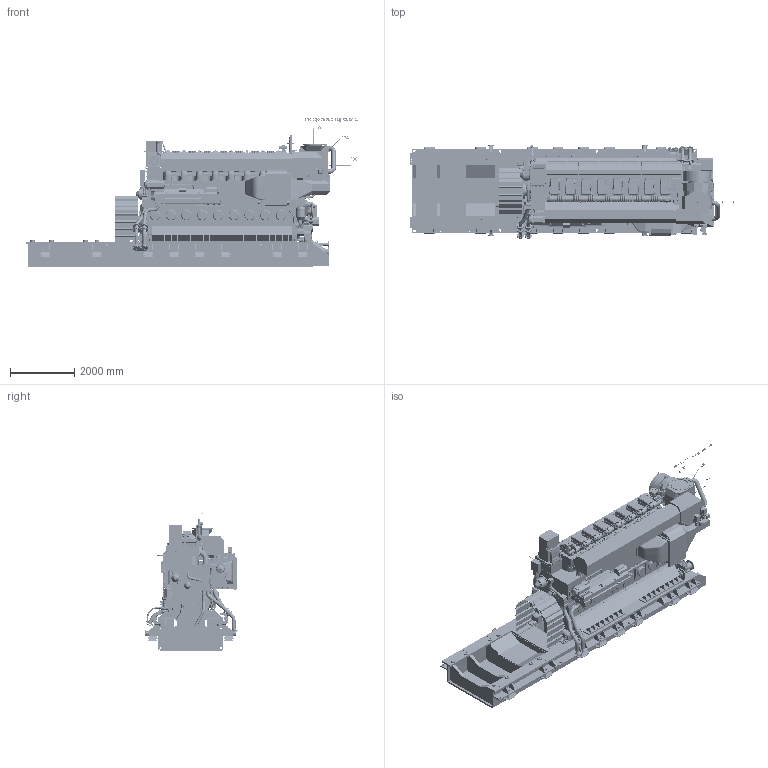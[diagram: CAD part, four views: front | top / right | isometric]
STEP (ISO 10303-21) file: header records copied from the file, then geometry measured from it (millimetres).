
FILE_DESCRIPTION(/* description */ (''),/* implementation_level */ '2;1');
FILE_NAME(/* name */ 'DAAF385069_A.stp',/* time_stamp */ '2021-12-23T09:26:34+02:00',/* author */ (''),/* organization */ (''),/* preprocessor_version */ 'ST-DEVELOPER v16.7',/* originating_system */ 'SIEMENS PLM Software NX 1915',/* authorisation */ '');
FILE_SCHEMA (('AUTOMOTIVE_DESIGN { 1 0 10303 214 3 1 1 1 }'));
Products named in the file (75): PABA316068_-; PAAF442682_-; PAAF211477_-; PAAF363075_-; PAAF443398_-; PABA097868_-; PAAF447172_-; PAAF528361_-; PABA065852_-; PABA135981_-; PABA089633_-; PABA142427_-; PAAF671497_-; PABA259622_-; PAAF247479_-; PAAF078074_-; PAAF559689_-; PAAF909498_-; PAAF977035_-; PAAF675626_-; PAAF270351_-; PAAF906214_-; PABA065520_-; PAAF078708_-; PAAF243367_-; PAAF721110_-; PAAF776393_-; PAAF681233_-; PAAF683775_-; PAAF407546_-; PAAF068492_-; PAAF920692_-; PAAF093819_-; PAAF093585_-; PAAF271372_-; PAAF093447_-; PAAF074444_-; PAAF087145_-; PAAF243686_-; PAAF245469_-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
Assembly tree (90 placements, depth 3):
  PABA316022_-
    PABA316023_-_MODEL
      PAAF063632_-
      PABA036862_-
      PAAF238216_-
      PAAF291916_-
      PAAF906204_-
      PAAF063770_-
      PAAF895907_-
      PAAF976966_-
      PAAF976975_-
      PAAF064319_-
      PAAF243623_-
      PAAF555902_-
      PAAF074388_-
      PAAF243671_-
      PAAF555085_-  x2
      PAAF555086_-  x2
      PAAF692337_-
      PAAF397145_-
      PAAF078241_-
      PAAF087122_-
      PAAF087082_-
      PAAF975946_-  x7
      PAAF975926_-  x8
      PABA066964_-
      PAAF906213_-
      PAAF247485_-
      PAAF247482_-
      PAAF087136_-
      PAAF245469_-
      PAAF243686_-
      PAAF087145_-
      PAAF074444_-
      PAAF093447_-
      PAAF271372_-
      PAAF093585_-
      PAAF093819_-
      PAAF920692_-
      PAAF068492_-
      PAAF407546_-
      PAAF683775_-
      PAAF681233_-
      PAAF776393_-
      PAAF721110_-
      PAAF243367_-  x2
      PAAF078708_-
      PABA065520_-
      PAAF906214_-
      PAAF270351_-
      PAAF675626_-
      PAAF977035_-
      PAAF909498_-
      PAAF559689_-
      PAAF078074_-
      PAAF247479_-
      PABA259622_-
      PAAF671497_-
      PABA142427_-
      PABA089633_-
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Bounding box: 10313.63 x 2898.03 x 4642.49 mm (x, y, z)
Volume: 21651965111 mm3; surface area: 506383557.9 mm2
Topology: 631 solids, 680 shells, 22589 faces, 56289 edges, 36387 vertices
Faces by surface type: plane 12149, cylinder 6233, bspline 1962, cone 1164, extrusion 510, torus 485, sphere 63, revolution 23
Full cylindrical faces by diameter (mm): 1 x8, 3 x3, 4.5 x4, 5 x2, 6 x16, 6.4 x4, 6.5 x36, 8 x44, 8.5 x82, 9 x24, 9.7 x1, 10 x54, 10.2 x16, 10.25 x74, 10.3 x10, 11 x3, 11.908 x1, 12 x124, 12.3 x1, 13 x2, 13.2 x4, 13.5 x4, 14 x145, 14.5 x2, 15 x17, 15.5 x4, 15.6 x4, 15.7 x4, 16 x86, 16.2 x3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
Entity records: 791211 total; most frequent: CARTESIAN_POINT 288349, DIRECTION 98242, ORIENTED_EDGE 95524, EDGE_CURVE 47762, AXIS2_PLACEMENT_3D 34453, VERTEX_POINT 33426, EDGE_LOOP 30189, VECTOR 29313
